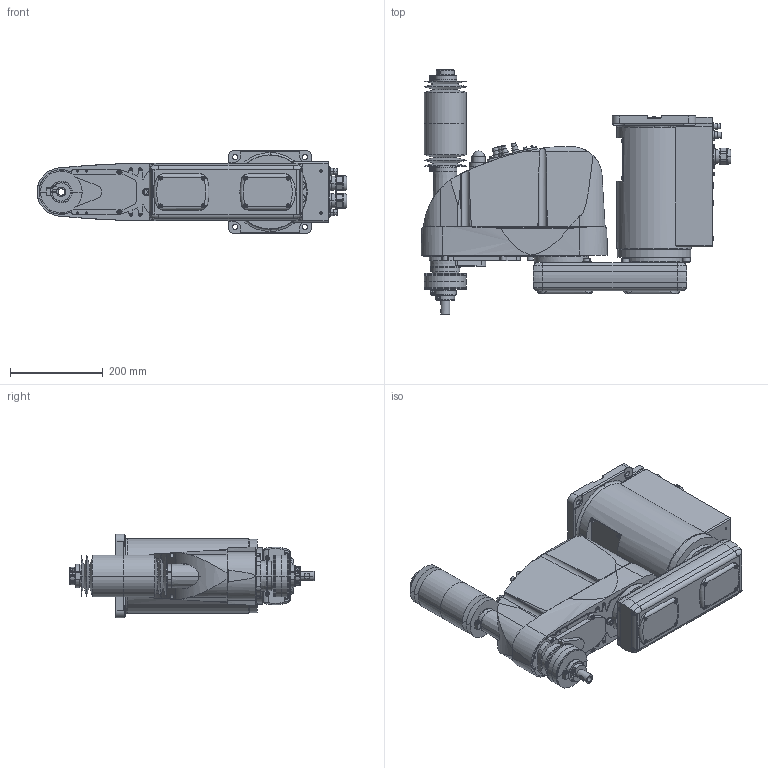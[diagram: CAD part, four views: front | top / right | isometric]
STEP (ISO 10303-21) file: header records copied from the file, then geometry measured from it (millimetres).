
FILE_DESCRIPTION( ( '' ), '1' );
FILE_NAME( '//expscmdclustefs.cadenas.external/client_exchange/iodir/jobs/output/wkb51531747_no0/STEP/G6_451CR_2_03.stp', '2012-11-23T08:17:01', ( '' ), ( '' ), ' ', ' ', ' ' );
FILE_SCHEMA( ( 'CONFIG_CONTROL_DESIGN' ) );
Length unit declared in the file: millimetre
Products named in the file (8): 1; 2; 3; 4; 5; 6; 7; 8
Bounding box: 667.5 x 526 x 180 mm (x, y, z)
Volume: 20669723.7 mm3; surface area: 1050045 mm2
Topology: 8 solids, 8 shells, 1810 faces, 4411 edges, 2831 vertices
Faces by surface type: plane 934, cylinder 606, cone 234, torus 35, sphere 1
Entity records: 56708 total; most frequent: CARTESIAN_POINT 12884, DIRECTION 9330, ORIENTED_EDGE 8770, EDGE_CURVE 4385, AXIS2_PLACEMENT_3D 3347, VERTEX_POINT 2831, LINE 2636, VECTOR 2636
